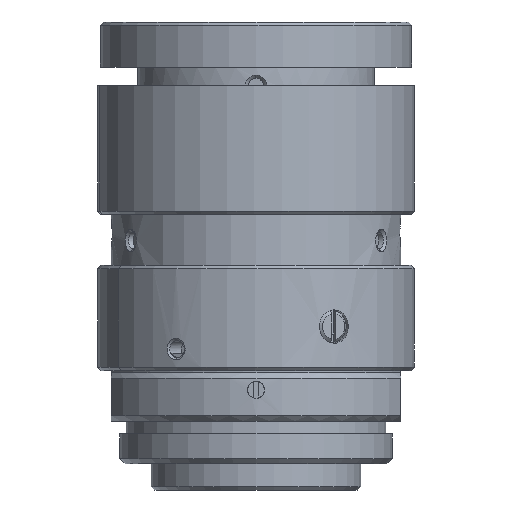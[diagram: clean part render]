
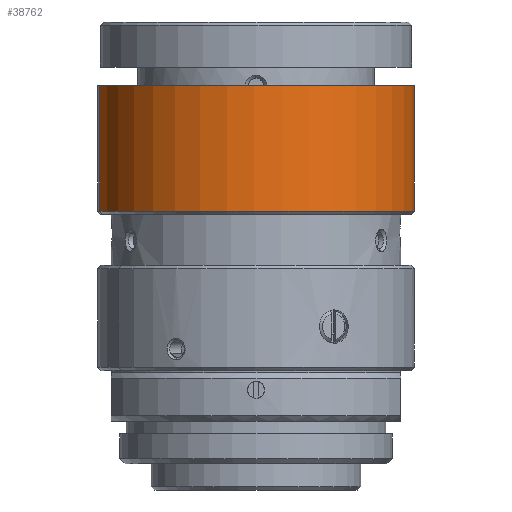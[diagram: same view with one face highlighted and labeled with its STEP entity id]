
A CAD part, front view. The second image highlights one B-rep face of the part: STEP entity #38762.
In plain terms, the highlighted cylindrical face has radius 14.75 mm (diameter 29.5 mm), a partial arc.
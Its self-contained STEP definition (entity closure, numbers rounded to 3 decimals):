
#198 = VERTEX_POINT ( 'NONE', #3952 ) ;
#748 = LINE ( 'NONE', #6549, #42371 ) ;
#1350 = DIRECTION ( 'NONE',  ( 0., 0., 1. ) ) ;
#1624 = ORIENTED_EDGE ( 'NONE', *, *, #3373, .T. ) ;
#2683 = DIRECTION ( 'NONE',  ( 0., 0., 1. ) ) ;
#3373 = EDGE_CURVE ( 'NONE', #29416, #50758, #748, .T. ) ;
#3388 = CARTESIAN_POINT ( 'NONE',  ( 0., 0., 14.731 ) ) ;
#3952 = CARTESIAN_POINT ( 'NONE',  ( -14.553, -2.405, 26.431 ) ) ;
#4005 = CARTESIAN_POINT ( 'NONE',  ( -14.553, -2.405, 14.731 ) ) ;
#4910 = AXIS2_PLACEMENT_3D ( 'NONE', #26837, #2683, #30912 ) ;
#5628 = CYLINDRICAL_SURFACE ( 'NONE', #22160, 14.75 ) ;
#5668 = VECTOR ( 'NONE', #1350, 1000. ) ;
#6464 = EDGE_LOOP ( 'NONE', ( #43306, #1624, #15962, #50763 ) ) ;
#6549 = CARTESIAN_POINT ( 'NONE',  ( 14.553, 2.405, 26.431 ) ) ;
#6864 = FACE_OUTER_BOUND ( 'NONE', #6464, .T. ) ;
#7426 = DIRECTION ( 'NONE',  ( -0.987, -0.163, 0. ) ) ;
#7777 = CARTESIAN_POINT ( 'NONE',  ( 14.553, 2.405, 26.431 ) ) ;
#8164 = CIRCLE ( 'NONE', #27839, 14.75 ) ;
#13161 = CARTESIAN_POINT ( 'NONE',  ( 14.553, 2.405, 14.731 ) ) ;
#15284 = EDGE_CURVE ( 'NONE', #198, #50758, #15782, .T. ) ;
#15782 = CIRCLE ( 'NONE', #4910, 14.75 ) ;
#15962 = ORIENTED_EDGE ( 'NONE', *, *, #15284, .F. ) ;
#17094 = CARTESIAN_POINT ( 'NONE',  ( 0., 0., 26.431 ) ) ;
#17233 = EDGE_CURVE ( 'NONE', #23337, #198, #25861, .T. ) ;
#17393 = CARTESIAN_POINT ( 'NONE',  ( -14.553, -2.405, 26.431 ) ) ;
#21146 = DIRECTION ( 'NONE',  ( -0.987, -0.163, 0. ) ) ;
#22160 = AXIS2_PLACEMENT_3D ( 'NONE', #17094, #41404, #21146 ) ;
#23337 = VERTEX_POINT ( 'NONE', #4005 ) ;
#25861 = LINE ( 'NONE', #17393, #5668 ) ;
#26837 = CARTESIAN_POINT ( 'NONE',  ( 0., 0., 26.431 ) ) ;
#27839 = AXIS2_PLACEMENT_3D ( 'NONE', #3388, #31596, #7426 ) ;
#29416 = VERTEX_POINT ( 'NONE', #13161 ) ;
#30912 = DIRECTION ( 'NONE',  ( -0.987, -0.163, 0. ) ) ;
#31596 = DIRECTION ( 'NONE',  ( 0., 0., 1. ) ) ;
#37382 = EDGE_CURVE ( 'NONE', #23337, #29416, #8164, .T. ) ;
#38762 = ADVANCED_FACE ( 'NONE', ( #6864 ), #5628, .T. ) ;
#41404 = DIRECTION ( 'NONE',  ( 0., 0., 1. ) ) ;
#42371 = VECTOR ( 'NONE', #46911, 1000. ) ;
#43306 = ORIENTED_EDGE ( 'NONE', *, *, #37382, .T. ) ;
#46911 = DIRECTION ( 'NONE',  ( 0., 0., 1. ) ) ;
#50758 = VERTEX_POINT ( 'NONE', #7777 ) ;
#50763 = ORIENTED_EDGE ( 'NONE', *, *, #17233, .F. ) ;
